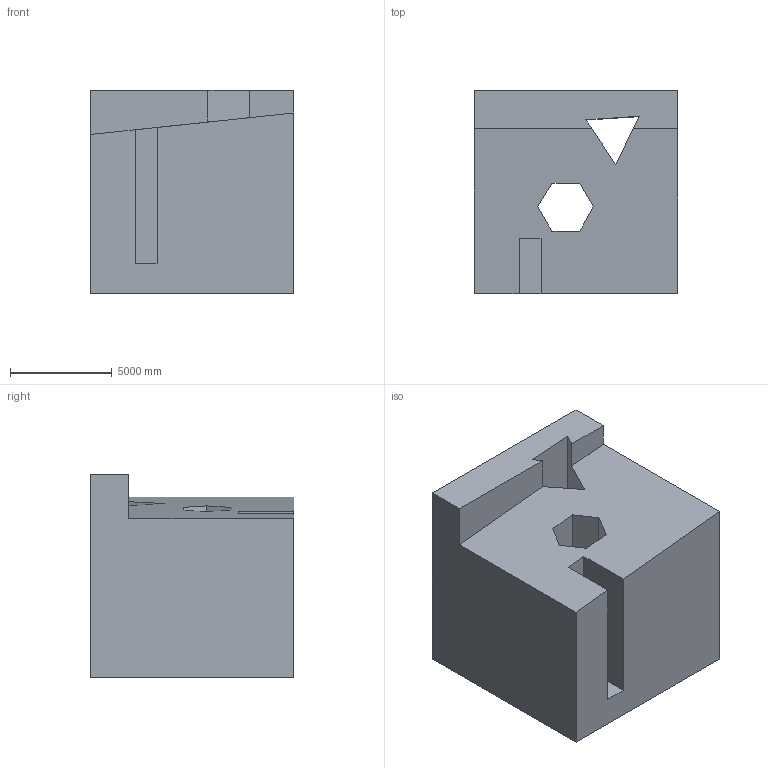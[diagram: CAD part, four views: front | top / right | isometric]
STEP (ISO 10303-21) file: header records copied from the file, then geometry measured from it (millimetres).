
FILE_DESCRIPTION (( 'STEP AP203' ), '1' );
FILE_NAME ('1457.STEP', '2022-08-18T14:35:30', ( 'user' ), ( '' ), 'SwSTEP 2.0', 'SolidWorks 2021', '' );
FILE_SCHEMA (( 'CONFIG_CONTROL_DESIGN' ));
Length unit declared in the file: centimetre
Products named in the file (1): 1457
Bounding box: 10000 x 10000 x 10000 mm (x, y, z)
Volume: 748574021653.5 mm3; surface area: 781100912.4 mm2
Topology: 1 solids, 1 shells, 25 faces, 69 edges, 46 vertices
Faces by surface type: plane 23, cylinder 2
Entity records: 872 total; most frequent: CARTESIAN_POINT 141, ORIENTED_EDGE 138, DIRECTION 125, EDGE_CURVE 69, VECTOR 65, LINE 65, VERTEX_POINT 46, AXIS2_PLACEMENT_3D 30
